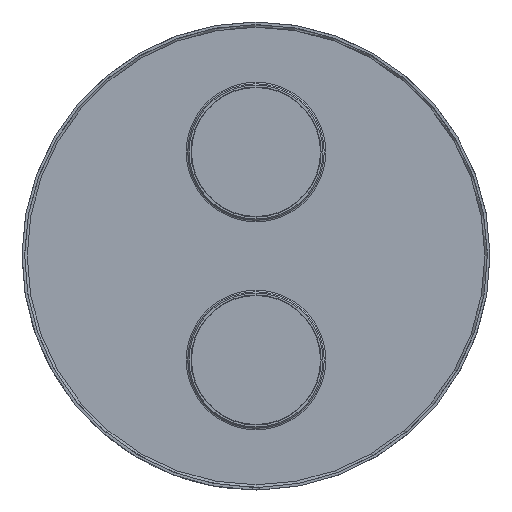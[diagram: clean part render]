
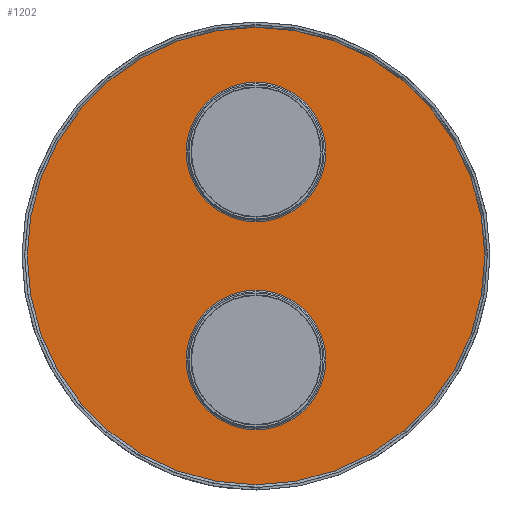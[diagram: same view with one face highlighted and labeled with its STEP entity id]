
A CAD part, left-side view. The second image highlights one B-rep face of the part: STEP entity #1202.
In plain terms, the highlighted planar face has unit normal (-1, 0, 0).
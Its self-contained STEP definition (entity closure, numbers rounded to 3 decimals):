
#66=PLANE('',#1364);
#162=FACE_BOUND('',#420,.T.);
#163=FACE_BOUND('',#421,.T.);
#268=FACE_OUTER_BOUND('',#419,.T.);
#419=EDGE_LOOP('',(#949));
#420=EDGE_LOOP('',(#950));
#421=EDGE_LOOP('',(#951));
#529=CIRCLE('',#1363,26.85);
#530=CIRCLE('',#1365,88.);
#531=CIRCLE('',#1366,26.85);
#626=VERTEX_POINT('',#2242);
#627=VERTEX_POINT('',#2245);
#628=VERTEX_POINT('',#2247);
#739=EDGE_CURVE('',#626,#626,#529,.T.);
#740=EDGE_CURVE('',#627,#627,#530,.T.);
#741=EDGE_CURVE('',#628,#628,#531,.T.);
#949=ORIENTED_EDGE('',*,*,#740,.T.);
#950=ORIENTED_EDGE('',*,*,#741,.T.);
#951=ORIENTED_EDGE('',*,*,#739,.T.);
#1202=ADVANCED_FACE('',(#268,#162,#163),#66,.T.);
#1363=AXIS2_PLACEMENT_3D('',#2243,#1690,#1691);
#1364=AXIS2_PLACEMENT_3D('',#2244,#1692,#1693);
#1365=AXIS2_PLACEMENT_3D('',#2246,#1694,#1695);
#1366=AXIS2_PLACEMENT_3D('',#2248,#1696,#1697);
#1690=DIRECTION('center_axis',(1.,0.,0.));
#1691=DIRECTION('ref_axis',(0.,-1.,0.));
#1692=DIRECTION('center_axis',(-1.,0.,0.));
#1693=DIRECTION('ref_axis',(0.,-1.,0.));
#1694=DIRECTION('center_axis',(-1.,0.,0.));
#1695=DIRECTION('ref_axis',(0.,-1.,0.));
#1696=DIRECTION('center_axis',(1.,0.,0.));
#1697=DIRECTION('ref_axis',(0.,-1.,0.));
#2242=CARTESIAN_POINT('',(85.49,26.85,-40.));
#2243=CARTESIAN_POINT('Origin',(85.49,0.,-40.));
#2244=CARTESIAN_POINT('Origin',(85.49,0.,0.));
#2245=CARTESIAN_POINT('',(85.49,88.,0.));
#2246=CARTESIAN_POINT('Origin',(85.49,0.,0.));
#2247=CARTESIAN_POINT('',(85.49,26.85,40.));
#2248=CARTESIAN_POINT('Origin',(85.49,0.,40.));
